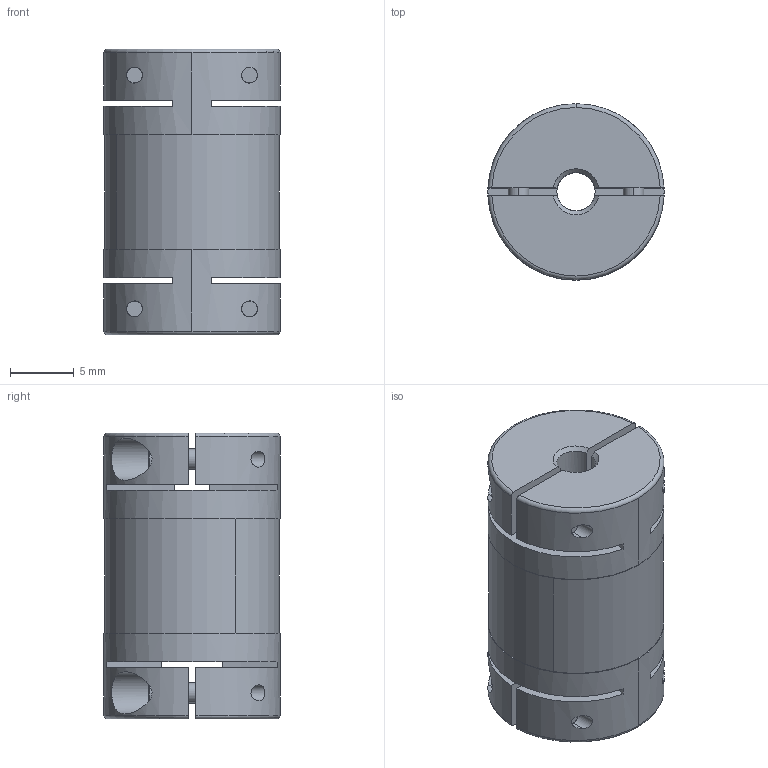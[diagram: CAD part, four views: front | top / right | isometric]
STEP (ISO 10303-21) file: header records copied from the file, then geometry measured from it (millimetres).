
FILE_DESCRIPTION (( 'STEP AP203' ), '1' );
FILE_NAME ('SHR-14C-3X5_203.STEP', '2013-05-18T11:38:00', ( 'Z77' ), ( '' ), 'SwSTEP 2.0', 'SolidWorks 2012', '' );
FILE_SCHEMA (( 'CONFIG_CONTROL_DESIGN' ));
Length unit declared in the file: millimetre
Products named in the file (1): SHR-14C-3X5_203
Bounding box: 13.8 x 13.8 x 22.4 mm (x, y, z)
Volume: 2647 mm3; surface area: 2439.9 mm2
Topology: 1 solids, 1 shells, 226 faces, 528 edges, 318 vertices
Faces by surface type: plane 92, cylinder 76, torus 30, cone 28
Entity records: 6805 total; most frequent: CARTESIAN_POINT 1449, DIRECTION 1194, ORIENTED_EDGE 1040, EDGE_CURVE 520, AXIS2_PLACEMENT_3D 479, VERTEX_POINT 318, EDGE_LOOP 258, CIRCLE 252
